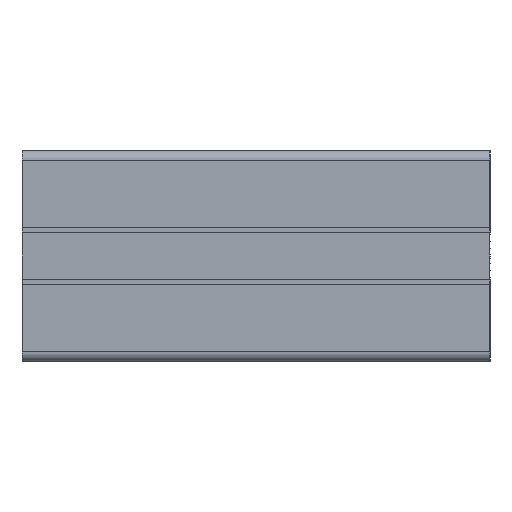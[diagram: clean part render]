
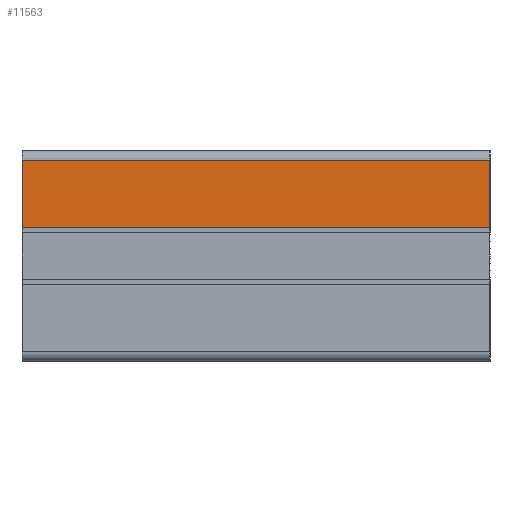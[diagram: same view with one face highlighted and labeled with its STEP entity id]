
A CAD part, left-side view. The second image highlights one B-rep face of the part: STEP entity #11563.
In plain terms, the highlighted planar face has unit normal (-1, 0, 0).
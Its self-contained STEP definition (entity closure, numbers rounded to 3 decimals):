
#2116=ORIENTED_EDGE('',*,*,#5144,.T.);
#2117=ORIENTED_EDGE('',*,*,#5143,.F.);
#2118=ORIENTED_EDGE('',*,*,#5145,.F.);
#2119=ORIENTED_EDGE('',*,*,#5146,.T.);
#5143=EDGE_CURVE('',#6458,#6457,#7776,.T.);
#5144=EDGE_CURVE('',#6459,#6457,#7777,.T.);
#5145=EDGE_CURVE('',#6460,#6458,#7778,.T.);
#5146=EDGE_CURVE('',#6460,#6459,#7779,.T.);
#6457=VERTEX_POINT('',#18250);
#6458=VERTEX_POINT('',#18252);
#6459=VERTEX_POINT('',#18256);
#6460=VERTEX_POINT('',#18258);
#7776=LINE('',#18253,#9161);
#7777=LINE('',#18255,#9162);
#7778=LINE('',#18257,#9163);
#7779=LINE('',#18259,#9164);
#9161=VECTOR('',#14880,1000.);
#9162=VECTOR('',#14883,1000.);
#9163=VECTOR('',#14884,1000.);
#9164=VECTOR('',#14885,1000.);
#9964=EDGE_LOOP('',(#2116,#2117,#2118,#2119));
#10559=FACE_BOUND('',#9964,.T.);
#11043=PLANE('',#12371);
#11563=ADVANCED_FACE('',(#10559),#11043,.F.);
#12371=AXIS2_PLACEMENT_3D('',#18254,#14881,#14882);
#14880=DIRECTION('',(0.,-1.,0.));
#14881=DIRECTION('',(1.,0.,0.));
#14882=DIRECTION('',(0.,-1.,0.));
#14883=DIRECTION('',(0.,0.,1.));
#14884=DIRECTION('',(0.,0.,1.));
#14885=DIRECTION('',(0.,-1.,0.));
#18250=CARTESIAN_POINT('',(-16.38,-100.,124.8));
#18252=CARTESIAN_POINT('',(-16.38,0.,124.8));
#18253=CARTESIAN_POINT('',(-16.38,0.,124.8));
#18254=CARTESIAN_POINT('',(-16.38,0.,110.4));
#18255=CARTESIAN_POINT('',(-16.38,-100.,110.4));
#18256=CARTESIAN_POINT('',(-16.38,-100.,110.4));
#18257=CARTESIAN_POINT('',(-16.38,0.,110.4));
#18258=CARTESIAN_POINT('',(-16.38,0.,110.4));
#18259=CARTESIAN_POINT('',(-16.38,0.,110.4));
